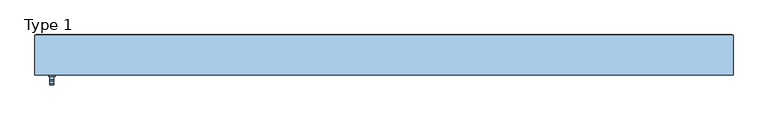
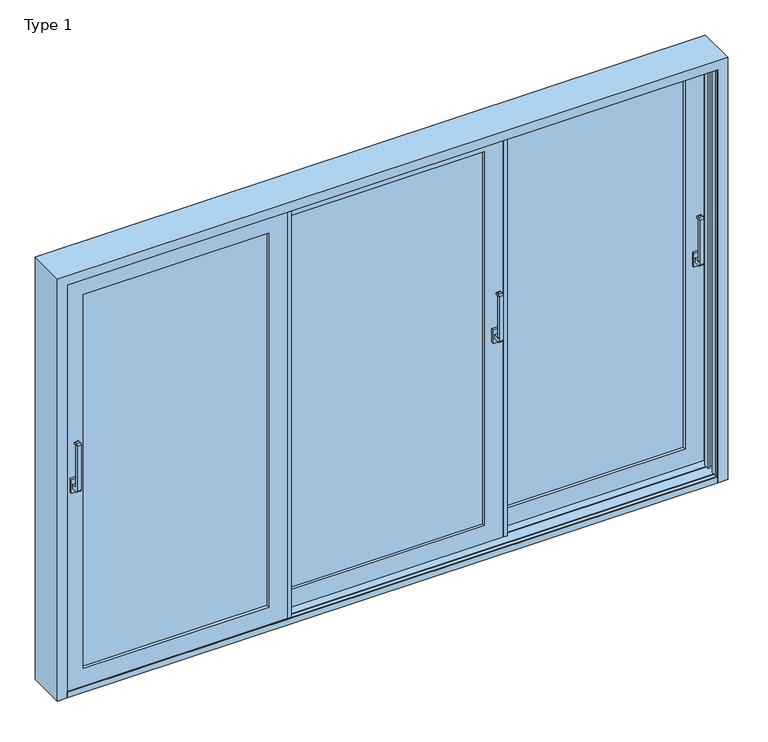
"""IFC4 building model written with IfcOpenShell, lengths in millimetres: window geometry, ETEM_E50_Triple_Lift_Sliding_FR : Type 1."""

from ifc_helpers import new_model, si_unit, point, frame, frame_2d, origin, place, context, project, spatial, polyline, circle_curve, trimmed, segment, composite_curve, outline, extrude, faceted_brep, source, transform, mapped, element, save


def type_1_63cc301c(model_context):
    return source(origin(), model_context, "Body", "SolidModel", [
        extrude(outline(composite_curve([segment(polyline([(-28.6518056, 1090.0), (-60.2254904, 1090.0)]), True, "CONTINUOUS"), segment(trimmed(circle_curve(frame_2d((-60.2254904, 1098.4263152)), 8.4263152), [point((-60.2254904, 1090.0))], [point((-68.6518056, 1098.4263152))], False, "CARTESIAN"), True, "CONTINUOUS"), segment(polyline([(-68.6518056, 1098.4263152), (-68.6518056, 1331.5736848)]), True, "CONTINUOUS"), segment(trimmed(circle_curve(frame_2d((-60.2254904, 1331.5736848)), 8.4263152), [point((-68.6518056, 1331.5736848))], [point((-60.2254904, 1340.0))], False, "CARTESIAN"), True, "CONTINUOUS"), segment(polyline([(-60.2254904, 1340.0), (-48.6518056, 1340.0)]), True, "CONTINUOUS"), segment(trimmed(circle_curve(frame_2d((-48.6518056, 1335.0)), 5.0), [point((-48.6518056, 1340.0))], [point((-48.6518056, 1330.0))], False, "CARTESIAN"), True, "CONTINUOUS"), segment(polyline([(-48.6518056, 1330.0), (-55.1162717, 1330.0)]), True, "CONTINUOUS"), segment(trimmed(circle_curve(frame_2d((-55.1162717, 1326.4644661)), 3.5355339), [point((-55.1162717, 1330.0))], [point((-58.6518056, 1326.4644661))], True, "CARTESIAN"), True, "CONTINUOUS"), segment(polyline([(-58.6518056, 1326.4644661), (-58.6518056, 1113.5355339)]), True, "CONTINUOUS"), segment(trimmed(circle_curve(frame_2d((-55.1162717, 1113.5355339)), 3.5355339), [point((-58.6518056, 1113.5355339))], [point((-55.1162717, 1110.0))], True, "CARTESIAN"), True, "CONTINUOUS"), segment(polyline([(-55.1162717, 1110.0), (-28.6518056, 1110.0), (-28.6518056, 1090.0)]), True, "CONTINUOUS")], self_intersect=False)), frame((534.9657671, 0.0, 0.0), z_axis=(1.0, 0.0, 0.0), x_axis=(0.0, 1.0, 0.0)), (0.0, 0.0, 1.0), 20.0),
        extrude(outline(polyline([(529.9657671, -28.6518056), (529.9657671, -15.6518056), (559.9657671, -15.6518056), (559.9657671, -28.6518056), (529.9657671, -28.6518056)])), frame((0.0, 0.0, 1065.0), z_axis=(0.0, 0.0, 1.0), x_axis=(1.0, 0.0, 0.0)), (0.0, 0.0, 1.0), 70.0),
        extrude(outline(composite_curve([segment(polyline([(36.3481944, 1090.0), (4.7745096, 1090.0)]), True, "CONTINUOUS"), segment(trimmed(circle_curve(frame_2d((4.7745096, 1098.4263152)), 8.4263152), [point((4.7745096, 1090.0))], [point((-3.6518056, 1098.4263152))], False, "CARTESIAN"), True, "CONTINUOUS"), segment(polyline([(-3.6518056, 1098.4263152), (-3.6518056, 1331.5736848)]), True, "CONTINUOUS"), segment(trimmed(circle_curve(frame_2d((4.7745096, 1331.5736848)), 8.4263152), [point((-3.6518056, 1331.5736848))], [point((4.7745096, 1340.0))], False, "CARTESIAN"), True, "CONTINUOUS"), segment(polyline([(4.7745096, 1340.0), (16.3481944, 1340.0)]), True, "CONTINUOUS"), segment(trimmed(circle_curve(frame_2d((16.3481944, 1335.0)), 5.0), [point((16.3481944, 1340.0))], [point((16.3481944, 1330.0))], False, "CARTESIAN"), True, "CONTINUOUS"), segment(polyline([(16.3481944, 1330.0), (9.8837283, 1330.0)]), True, "CONTINUOUS"), segment(trimmed(circle_curve(frame_2d((9.8837283, 1326.4644661)), 3.5355339), [point((9.8837283, 1330.0))], [point((6.3481944, 1326.4644661))], True, "CARTESIAN"), True, "CONTINUOUS"), segment(polyline([(6.3481944, 1326.4644661), (6.3481944, 1113.5355339)]), True, "CONTINUOUS"), segment(trimmed(circle_curve(frame_2d((9.8837283, 1113.5355339)), 3.5355339), [point((6.3481944, 1113.5355339))], [point((9.8837283, 1110.0))], True, "CARTESIAN"), True, "CONTINUOUS"), segment(polyline([(9.8837283, 1110.0), (36.3481944, 1110.0), (36.3481944, 1090.0)]), True, "CONTINUOUS")], self_intersect=False)), frame((1559.999965, 0.0, 0.0), z_axis=(1.0, 0.0, 0.0), x_axis=(0.0, 1.0, 0.0)), (0.0, 0.0, 1.0), 20.0),
        extrude(outline(polyline([(1554.999965, 36.3481944), (1554.999965, 49.3481944), (1584.999965, 49.3481944), (1584.999965, 36.3481944), (1554.999965, 36.3481944)])), frame((0.0, 0.0, 1065.0), z_axis=(0.0, 0.0, 1.0), x_axis=(1.0, 0.0, 0.0)), (0.0, 0.0, 1.0), 70.0),
        extrude(outline(composite_curve([segment(polyline([(-93.6518056, 1090.0), (-125.2254904, 1090.0)]), True, "CONTINUOUS"), segment(trimmed(circle_curve(frame_2d((-125.2254904, 1098.4263152)), 8.4263152), [point((-125.2254904, 1090.0))], [point((-133.6518056, 1098.4263152))], False, "CARTESIAN"), True, "CONTINUOUS"), segment(polyline([(-133.6518056, 1098.4263152), (-133.6518056, 1331.5736848)]), True, "CONTINUOUS"), segment(trimmed(circle_curve(frame_2d((-125.2254904, 1331.5736848)), 8.4263152), [point((-133.6518056, 1331.5736848))], [point((-125.2254904, 1340.0))], False, "CARTESIAN"), True, "CONTINUOUS"), segment(polyline([(-125.2254904, 1340.0), (-113.6518056, 1340.0)]), True, "CONTINUOUS"), segment(trimmed(circle_curve(frame_2d((-113.6518056, 1335.0)), 5.0), [point((-113.6518056, 1340.0))], [point((-113.6518056, 1330.0))], False, "CARTESIAN"), True, "CONTINUOUS"), segment(polyline([(-113.6518056, 1330.0), (-120.1162717, 1330.0)]), True, "CONTINUOUS"), segment(trimmed(circle_curve(frame_2d((-120.1162717, 1326.4644661)), 3.5355339), [point((-120.1162717, 1330.0))], [point((-123.6518056, 1326.4644661))], True, "CARTESIAN"), True, "CONTINUOUS"), segment(polyline([(-123.6518056, 1326.4644661), (-123.6518056, 1113.5355339)]), True, "CONTINUOUS"), segment(trimmed(circle_curve(frame_2d((-120.1162717, 1113.5355339)), 3.5355339), [point((-123.6518056, 1113.5355339))], [point((-120.1162717, 1110.0))], True, "CARTESIAN"), True, "CONTINUOUS"), segment(polyline([(-120.1162717, 1110.0), (-93.6518056, 1110.0), (-93.6518056, 1090.0)]), True, "CONTINUOUS")], self_intersect=False)), frame((-1579.999965, 0.0, 0.0), z_axis=(1.0, 0.0, 0.0), x_axis=(0.0, 1.0, 0.0)), (0.0, 0.0, 1.0), 20.0),
        extrude(outline(polyline([(-1584.999965, -93.6518056), (-1584.999965, -80.6518056), (-1554.999965, -80.6518056), (-1554.999965, -93.6518056), (-1584.999965, -93.6518056)])), frame((0.0, 0.0, 1065.0), z_axis=(0.0, 0.0, 1.0), x_axis=(1.0, 0.0, 0.0)), (0.0, 0.0, 1.0), 70.0),
        faceted_brep([(514.5, 94.6481944, 2160.5), (514.5, 99.3481944, 2160.5), (514.5, 99.3481944, 30.0), (514.5, 94.6481944, 30.0), (1610.499965, 99.3481944, 2160.5), (1610.499965, 99.3481944, 30.0), (606.0, 99.3481944, 121.5), (1518.999965, 99.3481944, 121.5), (1518.999965, 99.3481944, 2069.0), (606.0, 99.3481944, 2069.0), (1610.499965, 94.6481944, 30.0), (1610.499965, 94.6481944, 2160.5), (543.7, 94.6481944, 2131.3), (1581.299965, 94.6481944, 2131.3), (1581.299965, 94.6481944, 59.2), (543.7, 94.6481944, 59.2), (543.7, 54.0481944, 2131.3), (543.7, 54.0481944, 59.2), (1581.299965, 54.0481944, 59.2), (514.5, 54.0481944, 2160.5), (1610.499965, 54.0481944, 2160.5), (1610.499965, 54.0481944, 30.0), (514.5, 54.0481944, 30.0), (1581.299965, 54.0481944, 2131.3), (514.5, 49.3481944, 2160.5), (514.5, 49.3481944, 30.0), (1610.499965, 49.3481944, 30.0), (1610.499965, 49.3481944, 2160.5), (606.0, 49.3481944, 2069.0), (1518.999965, 49.3481944, 2069.0), (1518.999965, 49.3481944, 121.5), (606.0, 49.3481944, 121.5)], [[[0, 1, 2, 3]], [[1, 4, 5, 2], [6, 7, 8, 9]], [[3, 2, 5, 10]], [[3, 10, 11, 0], [12, 13, 14, 15]], [[16, 12, 15, 17]], [[17, 15, 14, 18]], [[19, 20, 21, 22], [17, 18, 23, 16]], [[24, 19, 22, 25]], [[25, 22, 21, 26]], [[25, 26, 27, 24], [28, 29, 30, 31]], [[9, 28, 31, 6]], [[6, 31, 30, 7]], [[10, 5, 4, 11]], [[18, 14, 13, 23]], [[26, 21, 20, 27]], [[7, 30, 29, 8]], [[11, 4, 1, 0]], [[23, 13, 12, 16]], [[27, 20, 19, 24]], [[8, 29, 28, 9]]]),
        extrude(outline(polyline([(606.0, -15.6259028), (585.5, -15.6259028), (585.5, 45.3481944), (606.0, 45.3481944), (606.0, -15.6259028)])), frame((0.0, 0.0, 30.0), z_axis=(0.0, 0.0, 1.0), x_axis=(1.0, 0.0, 0.0)), (0.0, 0.0, 1.0), 2130.5),
        extrude(outline(polyline([(494.0, 99.3481944), (514.5, 99.3481944), (514.5, 38.3481944), (494.0, 38.3481944), (494.0, 99.3481944)])), frame((0.0, 0.0, 30.0), z_axis=(0.0, 0.0, 1.0), x_axis=(1.0, 0.0, 0.0)), (0.0, 0.0, 1.0), 2130.5),
        extrude(outline(polyline([(606.0, 91.3481944), (1518.999965, 91.3481944), (1518.999965, 86.3481944), (606.0, 86.3481944), (606.0, 91.3481944)])), frame((0.0, 0.0, 121.5), z_axis=(0.0, 0.0, 1.0), x_axis=(1.0, 0.0, 0.0)), (0.0, 0.0, 1.0), 1947.5),
        extrude(outline(polyline([(-494.0, 26.3481944), (494.0, 26.3481944), (494.0, 21.3481944), (-494.0, 21.3481944), (-494.0, 26.3481944)])), frame((0.0, 0.0, 121.5), z_axis=(0.0, 0.0, 1.0), x_axis=(1.0, 0.0, 0.0)), (0.0, 0.0, 1.0), 1947.5),
        extrude(outline(polyline([(606.0, 70.3481944), (1518.999965, 70.3481944), (1518.999965, 65.3481944), (606.0, 65.3481944), (606.0, 70.3481944)])), frame((0.0, 0.0, 121.5), z_axis=(0.0, 0.0, 1.0), x_axis=(1.0, 0.0, 0.0)), (0.0, 0.0, 1.0), 1947.5),
        extrude(outline(polyline([(-494.0, 5.3481944), (494.0, 5.3481944), (494.0, 0.3481944), (-494.0, 0.3481944), (-494.0, 5.3481944)])), frame((0.0, 0.0, 121.5), z_axis=(0.0, 0.0, 1.0), x_axis=(1.0, 0.0, 0.0)), (0.0, 0.0, 1.0), 1947.5),
        faceted_brep([(-606.0, -80.6518056, 2069.0), (-606.0, -30.6518056, 2069.0), (-606.0, -30.6518056, 121.5), (-606.0, -80.6518056, 121.5), (-1518.999965, -30.6518056, 121.5), (-1518.999965, -80.6518056, 121.5), (-1610.499965, -30.6518056, 30.0), (-1610.499965, -30.6518056, 2160.5), (-514.5, -30.6518056, 2160.5), (-514.5, -30.6518056, 30.0), (-1518.999965, -30.6518056, 2069.0), (-1518.999965, -80.6518056, 2069.0), (-514.5, -80.6518056, 30.0), (-514.5, -80.6518056, 2160.5), (-1610.499965, -80.6518056, 2160.5), (-1610.499965, -80.6518056, 30.0), (-514.5, -75.9518056, 2160.5), (-514.5, -75.9518056, 30.0), (-1610.499965, -75.9518056, 30.0), (-1610.499965, -75.9518056, 2160.5), (-543.7, -75.9518056, 59.2), (-543.7, -75.9518056, 2131.3), (-1581.299965, -75.9518056, 2131.3), (-1581.299965, -75.9518056, 59.2), (-543.7, -35.3518056, 2131.3), (-543.7, -35.3518056, 59.2), (-1581.299965, -35.3518056, 59.2), (-1581.299965, -35.3518056, 2131.3), (-514.5, -35.3518056, 30.0), (-514.5, -35.3518056, 2160.5), (-1610.499965, -35.3518056, 2160.5), (-1610.499965, -35.3518056, 30.0)], [[[0, 1, 2, 3]], [[3, 2, 4, 5]], [[6, 7, 8, 9], [2, 1, 10, 4]], [[5, 4, 10, 11]], [[12, 13, 14, 15], [5, 11, 0, 3]], [[16, 13, 12, 17]], [[17, 12, 15, 18]], [[18, 15, 14, 19]], [[18, 19, 16, 17], [20, 21, 22, 23]], [[24, 21, 20, 25]], [[25, 20, 23, 26]], [[26, 23, 22, 27]], [[28, 29, 30, 31], [26, 27, 24, 25]], [[8, 29, 28, 9]], [[9, 28, 31, 6]], [[6, 31, 30, 7]], [[11, 10, 1, 0]], [[19, 14, 13, 16]], [[27, 22, 21, 24]], [[7, 30, 29, 8]]]),
        extrude(outline(polyline([(-494.0, -19.6518056), (-494.0, -80.6518056), (-514.5, -80.6518056), (-514.5, -19.6518056), (-494.0, -19.6518056)])), frame((0.0, 0.0, 30.0), z_axis=(0.0, 0.0, 1.0), x_axis=(1.0, 0.0, 0.0)), (0.0, 0.0, 1.0), 2130.5),
        extrude(outline(polyline([(-605.9, -26.6518056), (-605.9, 34.3481944), (-585.5, 34.3481944), (-585.5, -26.6518056), (-605.9, -26.6518056)])), frame((0.0, 0.0, 30.0), z_axis=(0.0, 0.0, 1.0), x_axis=(1.0, 0.0, 0.0)), (0.0, 0.0, 1.0), 2130.5),
        extrude(outline(polyline([(-1518.999965, -38.6518056), (-606.0, -38.6518056), (-606.0, -43.6518056), (-1518.999965, -43.6518056), (-1518.999965, -38.6518056)])), frame((0.0, 0.0, 121.5), z_axis=(0.0, 0.0, 1.0), x_axis=(1.0, 0.0, 0.0)), (0.0, 0.0, 1.0), 1947.5),
        extrude(outline(polyline([(-1518.999965, -59.6518056), (-606.0, -59.6518056), (-606.0, -64.6518056), (-1518.999965, -64.6518056), (-1518.999965, -59.6518056)])), frame((0.0, 0.0, 121.5), z_axis=(0.0, 0.0, 1.0), x_axis=(1.0, 0.0, 0.0)), (0.0, 0.0, 1.0), 1947.5),
        faceted_brep([(494.0, -15.6259028, 2069.0), (494.0, 34.3740972, 2069.0), (494.0, 34.3740972, 121.5), (494.0, -15.6259028, 121.5), (-494.0, 34.3740972, 121.5), (-494.0, -15.6259028, 121.5), (-585.5, 34.3740972, 30.0), (-585.5, 34.3740972, 2160.5), (585.5, 34.3740972, 2160.5), (585.5, 34.3740972, 30.0), (-494.0, 34.3740972, 2069.0), (-494.0, -15.6259028, 2069.0), (585.5, -15.6259028, 30.0), (585.5, -15.6259028, 2160.5), (-585.5, -15.6259028, 2160.5), (-585.5, -15.6259028, 30.0), (585.5, -10.9259028, 2160.5), (585.5, -10.9259028, 30.0), (-585.5, -10.9259028, 30.0), (-585.5, -10.9259028, 2160.5), (556.3, -10.9259028, 59.2), (556.3, -10.9259028, 2131.3), (-556.3, -10.9259028, 2131.3), (-556.3, -10.9259028, 59.2), (556.3, 29.6740972, 2131.3), (556.3, 29.6740972, 59.2), (-556.3, 29.6740972, 59.2), (-556.3, 29.6740972, 2131.3), (585.5, 29.6740972, 30.0), (585.5, 29.6740972, 2160.5), (-585.5, 29.6740972, 2160.5), (-585.5, 29.6740972, 30.0)], [[[0, 1, 2, 3]], [[3, 2, 4, 5]], [[6, 7, 8, 9], [2, 1, 10, 4]], [[5, 4, 10, 11]], [[12, 13, 14, 15], [5, 11, 0, 3]], [[16, 13, 12, 17]], [[17, 12, 15, 18]], [[18, 15, 14, 19]], [[18, 19, 16, 17], [20, 21, 22, 23]], [[24, 21, 20, 25]], [[25, 20, 23, 26]], [[26, 23, 22, 27]], [[28, 29, 30, 31], [26, 27, 24, 25]], [[8, 29, 28, 9]], [[9, 28, 31, 6]], [[6, 31, 30, 7]], [[11, 10, 1, 0]], [[19, 14, 13, 16]], [[27, 22, 21, 24]], [[7, 30, 29, 8]]]),
        faceted_brep([(1650.0, -86.2518056, 0.0), (1650.0, 103.5481944, 0.0), (1650.0, 103.5481944, 2200.0), (1650.0, -86.2518056, 2200.0), (1628.2, 78.8481944, 0.0), (1628.2, 78.8481944, 2178.2), (1628.2, 101.4, 2178.2), (1628.2, 101.4, 0.0), (1609.5, 78.8481944, 0.0), (1609.5, 90.3481944, 0.0), (1609.5, 90.3481944, 2159.5), (1609.5, 78.8481944, 2159.5), (1601.5, 90.3481944, 0.0), (1601.5, 58.3481944, 0.0), (1601.5, 58.3481944, 2151.5), (1601.5, 90.3481944, 2151.5), (1628.2, 4.8481944, 0.0), (1628.2, -51.1518056, 0.0), (1628.2, -51.1518056, 2178.2), (1628.2, 4.8481944, 2178.2), (1628.2, -60.1518056, 0.0), (1628.2, -82.6518056, 0.0), (1628.2, -82.6518056, 2178.2), (1628.2, -60.1518056, 2178.2), (1601.5, -82.6518056, 0.0), (1601.5, -86.2518056, 0.0), (1601.5, -86.2518056, 2151.5), (1601.5, -82.6518056, 2151.5), (-1650.0, 103.5481944, 0.0), (-1650.0, -86.2518056, 0.0), (-1650.0, -86.2518056, 2200.0), (-1650.0, 103.5481944, 2200.0), (-1628.2, 101.4, 0.0), (-1628.2, 101.4, 2178.2), (-1628.2, 78.8481944, 2178.2), (-1628.2, 78.8481944, 0.0), (-1609.5, 90.3481944, 0.0), (-1609.5, 78.8481944, 0.0), (-1609.5, 78.8481944, 2159.5), (-1609.5, 90.3481944, 2159.5), (-1601.5, 58.3481944, 0.0), (-1601.5, 90.3481944, 0.0), (-1601.5, 90.3481944, 2151.5), (-1601.5, 58.3481944, 2151.5), (-1628.2, -51.1518056, 0.0), (-1628.2, 4.8481944, 0.0), (-1628.2, 4.8481944, 2178.2), (-1628.2, -51.1518056, 2178.2), (-1628.2, -82.6518056, 0.0), (-1628.2, -60.1518056, 0.0), (-1628.2, -60.1518056, 2178.2), (-1628.2, -82.6518056, 2178.2), (-1601.5, -86.2518056, 0.0), (-1601.5, -82.6518056, 0.0), (-1601.5, -82.6518056, 2151.5), (-1601.5, -86.2518056, 2151.5), (-1646.5, 105.0, 0.0), (-1646.5, 103.5481944, 0.0), (-1646.5, 103.5481944, 2196.5), (-1646.5, 105.0, 2196.5), (-1601.5, 105.0, 0.0), (1646.5, 105.0, 2196.5), (1646.5, 105.0, 0.0), (1601.5, 105.0, 0.0), (1601.5, 105.0, 2151.5), (-1601.5, 105.0, 2151.5), (-1601.5, 101.4, 0.0), (-1601.5, 101.4, 2151.5), (1601.5, 101.4, 0.0), (1601.5, 101.4, 2151.5), (1646.5, 103.5481944, 0.0), (1646.5, 103.5481944, 2196.5), (-1628.2, 13.8481944, 0.0), (-1628.2, 69.8481944, 0.0), (-1628.2, 69.8481944, 2178.2), (-1628.2, 13.8481944, 2178.2), (1628.2, 69.8481944, 0.0), (1628.2, 13.8481944, 0.0), (1628.2, 13.8481944, 2178.2), (1628.2, 69.8481944, 2178.2), (-1609.5, 69.8481944, 0.0), (-1609.5, 58.3481944, 0.0), (-1609.5, 58.3481944, 2159.5), (-1609.5, 69.8481944, 2159.5), (1609.5, 58.3481944, 0.0), (1609.5, 69.8481944, 0.0), (1609.5, 69.8481944, 2159.5), (1609.5, 58.3481944, 2159.5), (1609.5, -51.1518056, 0.0), (1609.5, -39.6518056, 0.0), (1609.5, -39.6518056, 2159.5), (1609.5, -51.1518056, 2159.5), (1601.5, -39.6518056, 0.0), (1601.5, -71.6518056, 0.0), (1601.5, -71.6518056, 2151.5), (1601.5, -39.6518056, 2151.5), (1609.5, -71.6518056, 0.0), (1609.5, -60.1518056, 0.0), (1609.5, -60.1518056, 2159.5), (1609.5, -71.6518056, 2159.5), (-1609.5, -39.6518056, 0.0), (-1609.5, -51.1518056, 0.0), (-1609.5, -51.1518056, 2159.5), (-1609.5, -39.6518056, 2159.5), (-1601.5, -71.6518056, 0.0), (-1601.5, -39.6518056, 0.0), (-1601.5, -39.6518056, 2151.5), (-1601.5, -71.6518056, 2151.5), (-1609.5, -60.1518056, 0.0), (-1609.5, -71.6518056, 0.0), (-1609.5, -71.6518056, 2159.5), (-1609.5, -60.1518056, 2159.5), (1609.5, 4.8481944, 0.0), (1609.5, -6.6518056, 0.0), (1601.5, -6.6518056, 0.0), (1601.5, 25.3481944, 0.0), (1609.5, 25.3481944, 0.0), (1609.5, 13.8481944, 0.0), (-1609.5, 13.8481944, 0.0), (-1609.5, 25.3481944, 0.0), (-1601.5, 25.3481944, 0.0), (-1601.5, -6.6518056, 0.0), (-1609.5, -6.6518056, 0.0), (-1609.5, 4.8481944, 0.0), (-1609.5, 4.8481944, 2159.5), (1609.5, 4.8481944, 2159.5), (1609.5, 13.8481944, 2159.5), (-1609.5, 13.8481944, 2159.5), (-1609.5, 25.3481944, 2159.5), (1609.5, 25.3481944, 2159.5), (1601.5, 25.3481944, 2151.5), (-1601.5, 25.3481944, 2151.5), (-1601.5, -6.6518056, 2151.5), (1601.5, -6.6518056, 2151.5), (1609.5, -6.6518056, 2159.5), (-1609.5, -6.6518056, 2159.5)], [[[0, 1, 2, 3]], [[4, 5, 6, 7]], [[8, 9, 10, 11]], [[12, 13, 14, 15]], [[16, 17, 18, 19]], [[20, 21, 22, 23]], [[24, 25, 26, 27]], [[28, 29, 30, 31]], [[32, 33, 34, 35]], [[36, 37, 38, 39]], [[40, 41, 42, 43]], [[44, 45, 46, 47]], [[48, 49, 50, 51]], [[52, 53, 54, 55]], [[3, 2, 31, 30]], [[6, 5, 34, 33]], [[11, 10, 39, 38]], [[15, 14, 43, 42]], [[19, 18, 47, 46]], [[23, 22, 51, 50]], [[27, 26, 55, 54]], [[56, 57, 58, 59]], [[60, 56, 59, 61, 62, 63, 64, 65]], [[66, 60, 65, 67]], [[63, 68, 69, 64]], [[70, 62, 61, 71]], [[71, 61, 59, 58]], [[64, 69, 67, 65]], [[72, 73, 74, 75]], [[76, 77, 78, 79]], [[74, 79, 78, 75]], [[80, 81, 82, 83]], [[84, 85, 86, 87]], [[88, 89, 90, 91]], [[92, 93, 94, 95]], [[96, 97, 98, 99]], [[100, 101, 102, 103]], [[104, 105, 106, 107]], [[108, 109, 110, 111]], [[86, 83, 82, 87]], [[91, 90, 103, 102]], [[95, 94, 107, 106]], [[99, 98, 111, 110]], [[32, 66, 67, 69, 68, 7, 6, 33]], [[25, 24, 21, 20, 97, 96, 93, 92, 89, 88, 17, 16, 112, 113, 114, 115, 116, 117, 77, 76, 85, 84, 13, 12, 9, 8, 4, 7, 68, 63, 62, 70, 1, 0]], [[2, 1, 70, 71, 58, 57, 28, 31]], [[29, 52, 55, 26, 25, 0, 3, 30]], [[37, 35, 34, 5, 4, 8, 11, 38]], [[41, 36, 39, 10, 9, 12, 15, 42]], [[81, 40, 43, 14, 13, 84, 87, 82]], [[101, 44, 47, 18, 17, 88, 91, 102]], [[53, 48, 51, 22, 21, 24, 27, 54]], [[49, 108, 111, 98, 97, 20, 23, 50]], [[52, 29, 28, 57, 56, 60, 66, 32, 35, 37, 36, 41, 40, 81, 80, 73, 72, 118, 119, 120, 121, 122, 123, 45, 44, 101, 100, 105, 104, 109, 108, 49, 48, 53]], [[73, 80, 83, 86, 85, 76, 79, 74]], [[105, 100, 103, 90, 89, 92, 95, 106]], [[109, 104, 107, 94, 93, 96, 99, 110]], [[45, 123, 124, 125, 112, 16, 19, 46]], [[118, 72, 75, 78, 77, 117, 126, 127]], [[119, 118, 127, 128]], [[120, 119, 128, 129, 116, 115, 130, 131]], [[121, 120, 131, 132]], [[122, 121, 132, 133, 114, 113, 134, 135]], [[123, 122, 135, 124]], [[113, 112, 125, 134]], [[115, 114, 133, 130]], [[117, 116, 129, 126]], [[127, 126, 129, 128]], [[131, 130, 133, 132]], [[135, 134, 125, 124]]]),
        faceted_brep([(-1628.2, 100.7481944, 0.0), (1628.2, 100.7481944, 0.0), (1628.2, 78.8481944, 0.0), (1609.5, 78.8481944, 0.0), (1609.5, 90.3481944, 0.0), (1601.5, 90.3481944, 0.0), (1601.5, 58.3481944, 0.0), (1609.5, 58.3481944, 0.0), (1609.5, 69.8481944, 0.0), (1628.2, 69.8481944, 0.0), (1628.2, 12.9241606, 0.0), (1607.4, 12.9241606, 0.0), (1607.4, 14.4241606, 0.0), (1602.0, 14.4241606, 0.0), (1602.0, 2.4241606, 0.0), (1607.4, 2.4241606, 0.0), (1607.4, 3.9241606, 0.0), (1628.2, 3.9241606, 0.0), (1628.2, -51.1518056, 0.0), (1609.5, -51.1518056, 0.0), (1609.5, -39.6518056, 0.0), (1601.5, -39.6518056, 0.0), (1601.5, -71.6518056, 0.0), (1609.5, -71.6518056, 0.0), (1609.5, -60.1518056, 0.0), (1628.2, -60.1518056, 0.0), (1628.2, -82.4518056, 0.0), (1601.5, -82.4518056, 0.0), (1601.5, -86.2518056, 0.0), (-1601.5, -86.2518056, 0.0), (-1601.5, -82.4518056, 0.0), (-1628.2, -82.4518056, 0.0), (-1628.2, -60.1518056, 0.0), (-1609.5, -60.1518056, 0.0), (-1609.5, -71.6518056, 0.0), (-1601.5, -71.6518056, 0.0), (-1601.5, -39.6518056, 0.0), (-1609.5, -39.6518056, 0.0), (-1609.5, -51.1518056, 0.0), (-1628.2, -51.1518056, 0.0), (-1628.2, 9.3740972, 0.0), (-1607.4, 9.3740972, 0.0), (-1607.4, 2.4241606, 0.0), (-1602.0, 2.4241606, 0.0), (-1602.0, 14.4241606, 0.0), (-1607.4, 14.4241606, 0.0), (-1607.4, 12.9241606, 0.0), (-1628.2, 12.9241606, 0.0), (-1628.2, 69.8481944, 0.0), (-1609.5, 69.8481944, 0.0), (-1609.5, 58.3481944, 0.0), (-1601.5, 58.3481944, 0.0), (-1601.5, 90.3481944, 0.0), (-1609.5, 90.3481944, 0.0), (-1609.5, 78.8481944, 0.0), (-1628.2, 78.8481944, 0.0), (1601.5, -86.2518056, 29.970192), (-1601.5, -86.2518056, 29.970192), (1601.5, -82.4518056, 29.970192), (-1601.5, -82.4518056, 29.970192), (1601.5, -82.4518056, 25.0), (-1601.5, -82.4518056, 25.0), (1628.2, -82.4518056, 25.0), (1628.2, -60.1518056, 25.0), (1609.5, -60.1518056, 25.0), (1609.5, -71.6518056, 25.0), (1601.5, -71.6518056, 25.0), (1601.5, -58.1518056, 25.0), (-1601.5, -58.1518056, 25.0), (-1601.5, -71.6518056, 25.0), (-1609.5, -71.6518056, 25.0), (-1609.5, -60.1518056, 25.0), (-1628.2, -60.1518056, 25.0), (-1628.2, -82.4518056, 25.0), (1601.5, -58.1518056, 21.1999997), (-1601.5, -58.1518056, 21.1999997), (1601.5, -53.1518056, 21.1999997), (-1601.5, -53.1518056, 21.1999997), (1601.5, -53.1518056, 25.0), (-1601.5, -53.1518056, 25.0), (1601.5, -39.6518056, 25.0), (1609.5, -39.6518056, 25.0), (1609.5, -51.1518056, 25.0), (1628.2, -51.1518056, 25.0), (1628.2, 3.9241606, 25.0), (1607.4, 3.9241606, 25.0), (1607.4, 2.4241606, 25.0), (1602.0, 2.4241606, 25.0), (1602.0, 6.8481944, 25.0), (-1602.0, 6.8481944, 25.0), (-1602.0, 2.4241606, 25.0), (-1607.4, 2.4241606, 25.0), (-1607.4, 6.8481944, 25.0), (-1628.2, 6.8481944, 25.0), (-1628.2, -51.1518056, 25.0), (-1609.5, -51.1518056, 25.0), (-1609.5, -39.6518056, 25.0), (-1601.5, -39.6518056, 25.0), (1602.0, 6.8481944, 21.1999997), (-1602.0, 6.8481944, 21.1999997), (-1607.4, 6.8481944, 21.1999997), (-1628.2, 6.8481944, 21.1999997), (-1607.4, 9.3740972, 21.1999997), (-1628.2, 9.3740972, 21.1999997), (1602.0, 11.8481944, 21.1999997), (-1602.0, 11.8481944, 21.1999997), (1602.0, 11.8481944, 25.0), (-1602.0, 11.8481944, 25.0), (1602.0, 14.4241606, 25.0), (1607.4, 14.4241606, 25.0), (1607.4, 12.9241606, 25.0), (1628.2, 12.9241606, 25.0), (1628.2, 69.8481944, 25.0), (1609.5, 69.8481944, 25.0), (1609.5, 58.3481944, 25.0), (1601.5, 58.3481944, 25.0), (1601.5, 71.8481944, 25.0), (-1601.5, 71.8481944, 25.0), (-1601.5, 58.3481944, 25.0), (-1609.5, 58.3481944, 25.0), (-1609.5, 69.8481944, 25.0), (-1628.2, 69.8481944, 25.0), (-1628.2, 12.9241606, 25.0), (-1607.4, 12.9241606, 25.0), (-1607.4, 14.4241606, 25.0), (-1602.0, 14.4241606, 25.0), (1601.5, 71.8481944, 21.1999997), (-1601.5, 71.8481944, 21.1999997), (1601.5, 76.8481944, 21.1999997), (-1601.5, 76.8481944, 21.1999997), (1601.5, 76.8481944, 25.0), (-1601.5, 76.8481944, 25.0), (1601.5, 90.3481944, 25.0), (1609.5, 90.3481944, 25.0), (1609.5, 78.8481944, 25.0), (1628.2, 78.8481944, 25.0), (1628.2, 100.7481944, 25.0), (-1628.2, 100.7481944, 25.0), (-1628.2, 78.8481944, 25.0), (-1609.5, 78.8481944, 25.0), (-1609.5, 90.3481944, 25.0), (-1601.5, 90.3481944, 25.0)], [[[0, 1, 2, 3, 4, 5, 6, 7, 8, 9, 10, 11, 12, 13, 14, 15, 16, 17, 18, 19, 20, 21, 22, 23, 24, 25, 26, 27, 28, 29, 30, 31, 32, 33, 34, 35, 36, 37, 38, 39, 40, 41, 42, 43, 44, 45, 46, 47, 48, 49, 50, 51, 52, 53, 54, 55]], [[29, 28, 56, 57]], [[57, 56, 58, 59]], [[59, 58, 60, 61]], [[61, 60, 62, 63, 64, 65, 66, 67, 68, 69, 70, 71, 72, 73]], [[68, 67, 74, 75]], [[75, 74, 76, 77]], [[77, 76, 78, 79]], [[79, 78, 80, 81, 82, 83, 84, 85, 86, 87, 88, 89, 90, 91, 92, 93, 94, 95, 96, 97]], [[89, 88, 98, 99]], [[93, 92, 100, 101]], [[101, 100, 102, 103]], [[99, 98, 104, 105]], [[105, 104, 106, 107]], [[107, 106, 108, 109, 110, 111, 112, 113, 114, 115, 116, 117, 118, 119, 120, 121, 122, 123, 124, 125]], [[117, 116, 126, 127]], [[127, 126, 128, 129]], [[129, 128, 130, 131]], [[131, 130, 132, 133, 134, 135, 136, 137, 138, 139, 140, 141]], [[1, 0, 137, 136]], [[61, 30, 29, 57, 59]], [[30, 61, 73, 31]], [[31, 73, 72, 32]], [[32, 72, 71, 33]], [[33, 71, 70, 34]], [[34, 70, 69, 35]], [[35, 69, 68, 75, 77, 79, 97, 36]], [[36, 97, 96, 37]], [[37, 96, 95, 38]], [[38, 95, 94, 39]], [[39, 94, 93, 101, 103, 40]], [[40, 103, 102, 41]], [[41, 102, 100, 92, 91, 42]], [[42, 91, 90, 43]], [[43, 90, 89, 99, 105, 107, 125, 44]], [[44, 125, 124, 45]], [[45, 124, 123, 46]], [[46, 123, 122, 47]], [[47, 122, 121, 48]], [[48, 121, 120, 49]], [[49, 120, 119, 50]], [[50, 119, 118, 51]], [[51, 118, 117, 127, 129, 131, 141, 52]], [[52, 141, 140, 53]], [[53, 140, 139, 54]], [[54, 139, 138, 55]], [[55, 138, 137, 0]], [[135, 2, 1, 136]], [[2, 135, 134, 3]], [[3, 134, 133, 4]], [[4, 133, 132, 5]], [[5, 132, 130, 128, 126, 116, 115, 6]], [[6, 115, 114, 7]], [[7, 114, 113, 8]], [[8, 113, 112, 9]], [[9, 112, 111, 10]], [[10, 111, 110, 11]], [[11, 110, 109, 12]], [[12, 109, 108, 13]], [[13, 108, 106, 104, 98, 88, 87, 14]], [[14, 87, 86, 15]], [[15, 86, 85, 16]], [[16, 85, 84, 17]], [[17, 84, 83, 18]], [[18, 83, 82, 19]], [[19, 82, 81, 20]], [[20, 81, 80, 21]], [[21, 80, 78, 76, 74, 67, 66, 22]], [[22, 66, 65, 23]], [[23, 65, 64, 24]], [[24, 64, 63, 25]], [[62, 26, 25, 63]], [[26, 62, 60, 27]], [[27, 60, 58, 56, 28]]]),
    ])


if __name__ == "__main__":
    model = new_model("IFC4")
    model_context = context("Model", 3, world=origin())
    ifc_project = project(units=[si_unit("LENGTHUNIT", "METRE", prefix="MILLI")], contexts=[model_context])
    site = spatial("IfcSite", under=ifc_project)
    building = spatial("IfcBuilding", under=site)
    placement = place(None, origin())
    type_1_shape = type_1_63cc301c(model_context)
    element("IfcWindow", 1, ObjectType="ETEM_E50_Triple_Lift_Sliding_FR : Type 1", at=placement, inside=building, context=model_context, shape_type="MappedRepresentation", body=[
        mapped(type_1_shape, transform((0.0, 0.0, 0.0), x_axis=(1.0, 0.0, 0.0), y_axis=(0.0, 1.0, 0.0), z_axis=(0.0, 0.0, 1.0))),
    ])
    save(model, "model.ifc")
